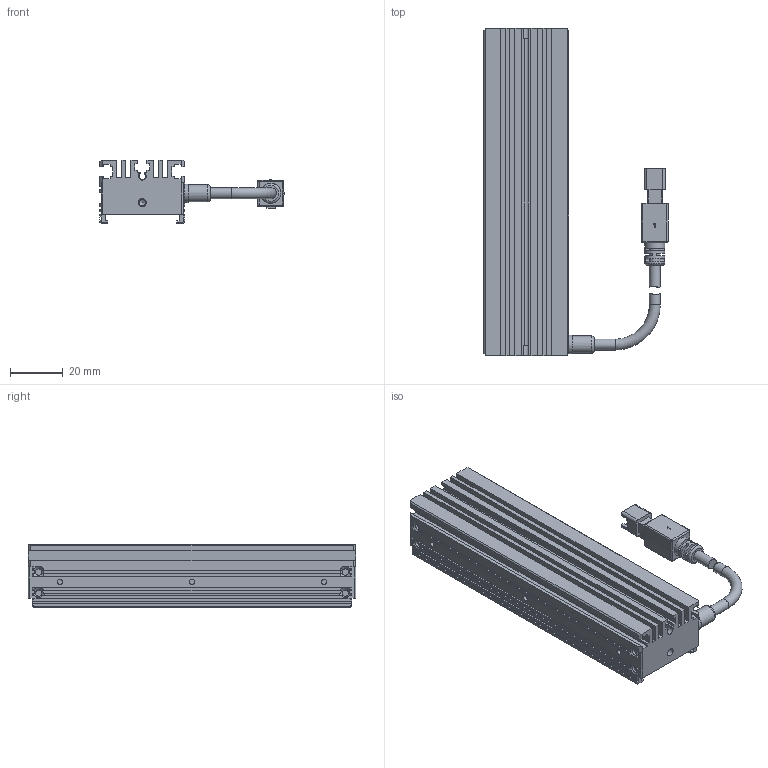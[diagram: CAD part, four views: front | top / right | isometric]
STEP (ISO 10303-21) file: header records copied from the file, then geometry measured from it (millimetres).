
FILE_DESCRIPTION (( 'STEP AP203' ), '1' );
FILE_NAME ('OPT-ULI12432-UV-V1.0尨砩芞.STEP', '2024-12-11T03:26:58', ( '' ), ( '' ), 'SwSTEP 2.0', 'SolidWorks 2016', '' );
FILE_SCHEMA (( 'CONFIG_CONTROL_DESIGN' ));
Length unit declared in the file: millimetre
Products named in the file (1): OPT-ULI12432-UV-V1.0尨砩芞
Bounding box: 69.6 x 124 x 24 mm (x, y, z)
Volume: 69767.8 mm3; surface area: 34032.1 mm2
Topology: 6 solids, 14 shells, 600 faces, 1557 edges, 998 vertices
Faces by surface type: plane 406, cylinder 137, cone 28, bspline 21, torus 8
Full cylindrical faces by diameter (mm): 1.1 x2, 1.4 x2, 1.6 x7, 2 x13, 2.4 x7, 2.5 x2, 3 x2, 3.5 x1, 4.1 x4, 6.5 x1, 7 x1, 7.5 x1
Entity records: 18369 total; most frequent: CARTESIAN_POINT 4240, ORIENTED_EDGE 2900, DIRECTION 2801, EDGE_CURVE 1450, VECTOR 1003, LINE 1003, VERTEX_POINT 966, AXIS2_PLACEMENT_3D 899
